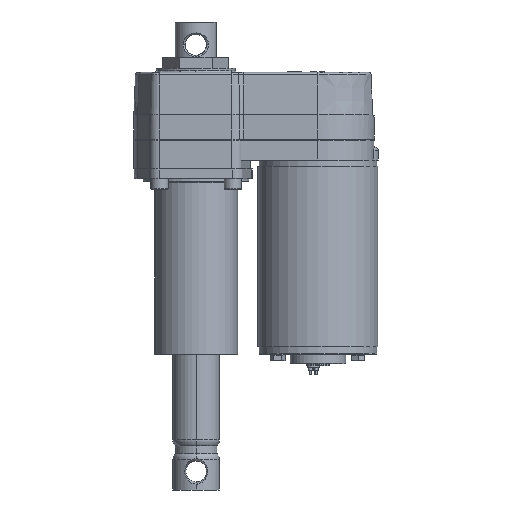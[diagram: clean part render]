
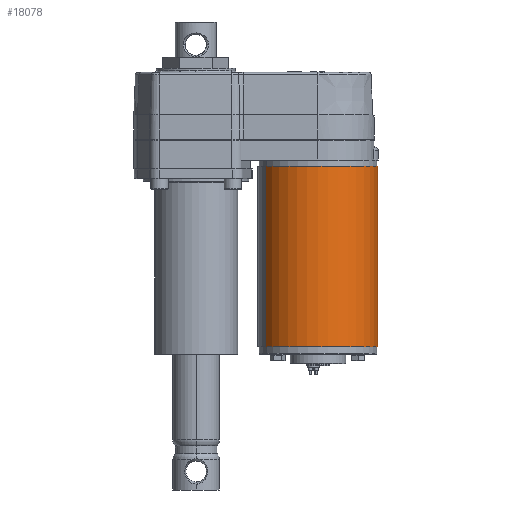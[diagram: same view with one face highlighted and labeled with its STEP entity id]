
A CAD part, front view. The second image highlights one B-rep face of the part: STEP entity #18078.
In plain terms, the highlighted cylindrical face has radius 36.805 mm (diameter 73.61 mm), a partial arc.
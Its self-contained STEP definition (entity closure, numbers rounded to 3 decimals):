
#2472 = DIRECTION ( 'NONE',  ( 0., 0., 1. ) ) ;
#5246 = FACE_OUTER_BOUND ( 'NONE', #43761, .T. ) ;
#6342 = ORIENTED_EDGE ( 'NONE', *, *, #59888, .T. ) ;
#6779 = CARTESIAN_POINT ( 'NONE',  ( 0., 0., -3.7 ) ) ;
#6803 = EDGE_CURVE ( 'NONE', #46681, #25108, #39421, .T. ) ;
#8394 = ORIENTED_EDGE ( 'NONE', *, *, #27849, .T. ) ;
#17584 = DIRECTION ( 'NONE',  ( -1., 0., 0. ) ) ;
#18078 = ADVANCED_FACE ( 'NONE', ( #5246 ), #21506, .T. ) ;
#18338 = AXIS2_PLACEMENT_3D ( 'NONE', #6779, #44251, #17584 ) ;
#20242 = CARTESIAN_POINT ( 'NONE',  ( -36.805, 0., -114.7 ) ) ;
#20703 = CARTESIAN_POINT ( 'NONE',  ( 0., 0., -3.7 ) ) ;
#21094 = CARTESIAN_POINT ( 'NONE',  ( 36.805, 0., -3.7 ) ) ;
#21506 = CYLINDRICAL_SURFACE ( 'NONE', #31604, 36.805 ) ;
#23468 = DIRECTION ( 'NONE',  ( -1., 0., 0. ) ) ;
#23694 = CARTESIAN_POINT ( 'NONE',  ( 0., 0., -114.7 ) ) ;
#23822 = DIRECTION ( 'NONE',  ( 0., 0., -1. ) ) ;
#24394 = VECTOR ( 'NONE', #67434, 1000. ) ;
#24545 = CARTESIAN_POINT ( 'NONE',  ( -36.805, 0., -3.7 ) ) ;
#25108 = VERTEX_POINT ( 'NONE', #28367 ) ;
#27499 = ORIENTED_EDGE ( 'NONE', *, *, #6803, .F. ) ;
#27849 = EDGE_CURVE ( 'NONE', #46681, #68239, #38631, .T. ) ;
#28367 = CARTESIAN_POINT ( 'NONE',  ( -36.805, 0., -3.7 ) ) ;
#30253 = AXIS2_PLACEMENT_3D ( 'NONE', #23694, #2472, #23468 ) ;
#31182 = DIRECTION ( 'NONE',  ( -1., 0., 0. ) ) ;
#31270 = CIRCLE ( 'NONE', #30253, 36.805 ) ;
#31604 = AXIS2_PLACEMENT_3D ( 'NONE', #20703, #63303, #31182 ) ;
#37199 = LINE ( 'NONE', #24545, #24394 ) ;
#37300 = ORIENTED_EDGE ( 'NONE', *, *, #60580, .F. ) ;
#38631 = LINE ( 'NONE', #66690, #49670 ) ;
#39421 = CIRCLE ( 'NONE', #18338, 36.805 ) ;
#43761 = EDGE_LOOP ( 'NONE', ( #27499, #8394, #6342, #37300 ) ) ;
#44251 = DIRECTION ( 'NONE',  ( 0., 0., 1. ) ) ;
#45505 = CARTESIAN_POINT ( 'NONE',  ( 36.805, 0., -114.7 ) ) ;
#46681 = VERTEX_POINT ( 'NONE', #21094 ) ;
#49670 = VECTOR ( 'NONE', #23822, 1000. ) ;
#57207 = VERTEX_POINT ( 'NONE', #20242 ) ;
#59888 = EDGE_CURVE ( 'NONE', #68239, #57207, #31270, .T. ) ;
#60580 = EDGE_CURVE ( 'NONE', #25108, #57207, #37199, .T. ) ;
#63303 = DIRECTION ( 'NONE',  ( 0., 0., -1. ) ) ;
#66690 = CARTESIAN_POINT ( 'NONE',  ( 36.805, 0., -3.7 ) ) ;
#67434 = DIRECTION ( 'NONE',  ( 0., 0., -1. ) ) ;
#68239 = VERTEX_POINT ( 'NONE', #45505 ) ;
